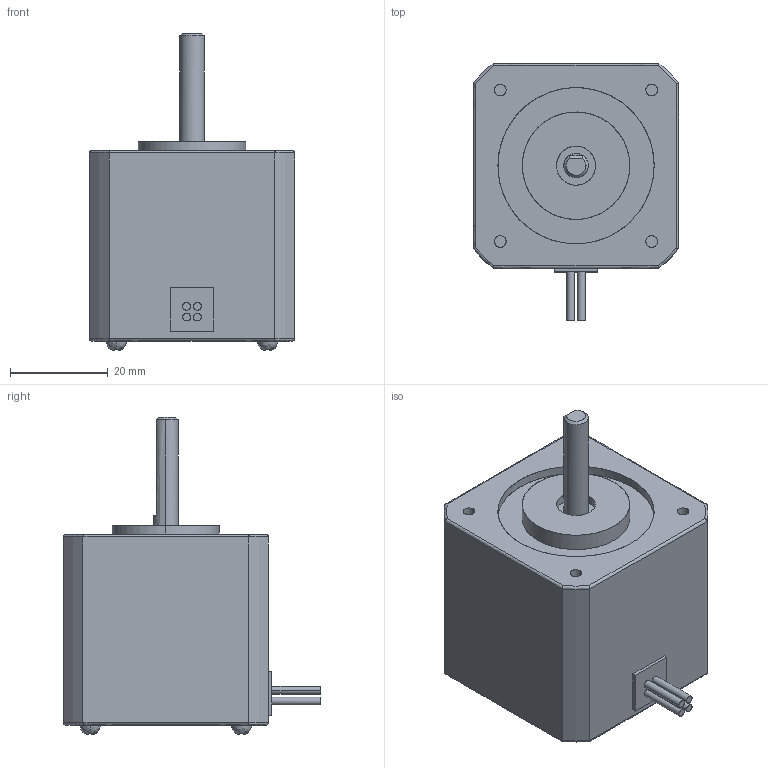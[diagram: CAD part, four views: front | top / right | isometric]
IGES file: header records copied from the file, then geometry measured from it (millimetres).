
Global section: file name: C:\DOCUME~1\PC001\BM-42M-C.igs; preprocessor: I-DEAS 3D IGES Translator 12; date: 20100107.192710; units: millimetre
Bounding box: 42 x 52.7 x 64.98 mm (x, y, z)
Surface area: 10876.5 mm2 (no closed solid volume)
Topology: 0 solids, 0 shells, 148 faces, 855 edges, 886 vertices
Faces by surface type: bspline 148
